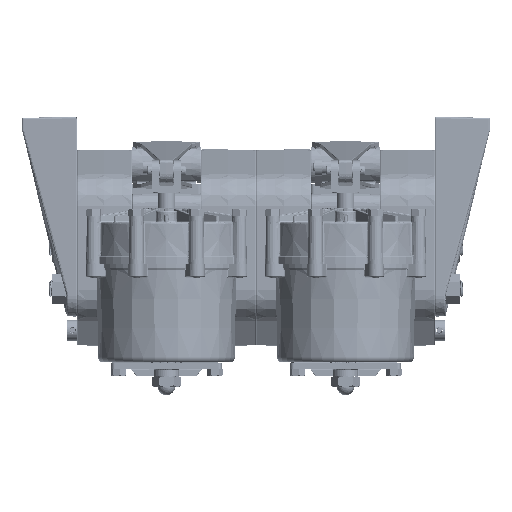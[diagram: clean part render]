
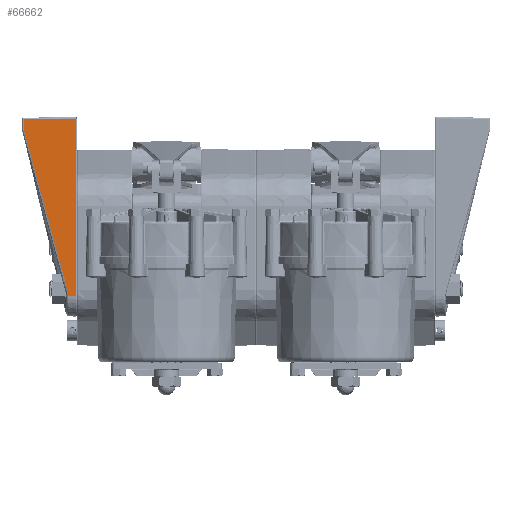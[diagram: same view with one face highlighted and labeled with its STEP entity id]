
A CAD part, left-side view. The second image highlights one B-rep face of the part: STEP entity #66662.
In plain terms, the highlighted planar face has unit normal (-1, 0.018, 0).
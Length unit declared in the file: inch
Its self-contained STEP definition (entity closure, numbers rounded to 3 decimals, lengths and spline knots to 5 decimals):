
#643 = ORIENTED_EDGE ( 'NONE', *, *, #358553, .T. ) ;
#4556 = VERTEX_POINT ( 'NONE', #82812 ) ;
#14386 = CARTESIAN_POINT ( 'NONE',  ( -4.11677, 8.43219, 4.23347 ) ) ;
#14685 = VECTOR ( 'NONE', #40124, 39.37008 ) ;
#19999 = CARTESIAN_POINT ( 'NONE',  ( -4.14427, 6.85702, -1.51057 ) ) ;
#22972 = CARTESIAN_POINT ( 'NONE',  ( -4.11677, 8.43219, 4.23347 ) ) ;
#27459 = LINE ( 'NONE', #77858, #246992 ) ;
#33780 = CARTESIAN_POINT ( 'NONE',  ( -4.11677, 8.43219, 4.65378 ) ) ;
#36001 = CARTESIAN_POINT ( 'NONE',  ( -4.12571, 7.91989, 2.41546 ) ) ;
#40124 = DIRECTION ( 'NONE',  ( 0.017, 1., -0.017 ) ) ;
#42906 = EDGE_CURVE ( 'NONE', #276134, #75764, #323130, .T. ) ;
#48799 = CARTESIAN_POINT ( 'NONE',  ( -4.14472, 6.83094, -1.62833 ) ) ;
#64887 = CARTESIAN_POINT ( 'NONE',  ( -4.1343, 7.42815, 0.61659 ) ) ;
#66028 = VECTOR ( 'NONE', #105627, 39.37008 ) ;
#66662 = ADVANCED_FACE ( 'NONE', ( #222710 ), #299421, .T. ) ;
#67817 = ORIENTED_EDGE ( 'NONE', *, *, #239038, .T. ) ;
#67942 = LINE ( 'NONE', #81614, #220214 ) ;
#75764 = VERTEX_POINT ( 'NONE', #130003 ) ;
#77683 = CARTESIAN_POINT ( 'NONE',  ( -4.14492, 6.81973, -1.68753 ) ) ;
#77858 = CARTESIAN_POINT ( 'NONE',  ( -4.14502, 6.81359, 4.75 ) ) ;
#80122 = EDGE_CURVE ( 'NONE', #136688, #201627, #67942, .T. ) ;
#81614 = CARTESIAN_POINT ( 'NONE',  ( -4.11677, 8.43219, 4.27316 ) ) ;
#82812 = CARTESIAN_POINT ( 'NONE',  ( -4.14994, 6.5318, 4.68695 ) ) ;
#101612 = AXIS2_PLACEMENT_3D ( 'NONE', #300633, #129103, #329366 ) ;
#102814 = CARTESIAN_POINT ( 'NONE',  ( -4.14502, 6.81359, -1.74761 ) ) ;
#105627 = DIRECTION ( 'NONE',  ( -0.017, -1., 0. ) ) ;
#106379 = CARTESIAN_POINT ( 'NONE',  ( -4.145, 6.81472, -1.72334 ) ) ;
#129103 = DIRECTION ( 'NONE',  ( -1., 0.017, 0. ) ) ;
#130003 = CARTESIAN_POINT ( 'NONE',  ( -4.14288, 6.93641, -1.18228 ) ) ;
#135115 = CARTESIAN_POINT ( 'NONE',  ( -4.14502, 6.81359, -1.74761 ) ) ;
#136688 = VERTEX_POINT ( 'NONE', #33780 ) ;
#143546 = EDGE_LOOP ( 'NONE', ( #288507, #643, #356212, #278394, #67817, #202859, #363116, #169129 ) ) ;
#144188 = EDGE_CURVE ( 'NONE', #75764, #320629, #171791, .T. ) ;
#169129 = ORIENTED_EDGE ( 'NONE', *, *, #236593, .T. ) ;
#170698 = CARTESIAN_POINT ( 'NONE',  ( -4.11701, 8.41838, 4.22074 ) ) ;
#171791 = B_SPLINE_CURVE_WITH_KNOTS ( 'NONE', 3,
 ( #276632, #305399, #191488, #19999, #220365, #48799, #249106, #77683, #277871, #106379, #306627, #135115 ),
 .UNSPECIFIED., .F., .F.,
 ( 4, 2, 2, 2, 2, 4 ),
 ( -0.00005, 0.00731, 0.01098, 0.01282, 0.01374, 0.01466 ),
 .UNSPECIFIED. ) ;
#175947 = LINE ( 'NONE', #211620, #14685 ) ;
#185411 = CARTESIAN_POINT ( 'NONE',  ( -4.11713, 8.41163, 4.21433 ) ) ;
#186369 = VERTEX_POINT ( 'NONE', #345706 ) ;
#191488 = CARTESIAN_POINT ( 'NONE',  ( -4.14369, 6.89028, -1.3697 ) ) ;
#201627 = VERTEX_POINT ( 'NONE', #14386 ) ;
#202859 = ORIENTED_EDGE ( 'NONE', *, *, #42906, .T. ) ;
#210885 = CARTESIAN_POINT ( 'NONE',  ( -4.14994, 6.5318, 4.68751 ) ) ;
#211620 = CARTESIAN_POINT ( 'NONE',  ( -4.15052, 6.49891, 4.68753 ) ) ;
#218317 = LINE ( 'NONE', #248390, #66028 ) ;
#219319 = DIRECTION ( 'NONE',  ( 0., 0., -1. ) ) ;
#220214 = VECTOR ( 'NONE', #281799, 39.37008 ) ;
#220365 = CARTESIAN_POINT ( 'NONE',  ( -4.14446, 6.8461, -1.55759 ) ) ;
#222710 = FACE_OUTER_BOUND ( 'NONE', #143546, .T. ) ;
#236421 = CARTESIAN_POINT ( 'NONE',  ( -4.11713, 8.41163, 4.21433 ) ) ;
#236593 = EDGE_CURVE ( 'NONE', #320629, #186369, #27459, .T. ) ;
#239038 = EDGE_CURVE ( 'NONE', #201627, #276134, #329468, .T. ) ;
#239782 = DIRECTION ( 'NONE',  ( 0., 0., 1. ) ) ;
#246992 = VECTOR ( 'NONE', #219319, 39.37008 ) ;
#248390 = CARTESIAN_POINT ( 'NONE',  ( -4.1505, 6.5, -1.75 ) ) ;
#248883 = VECTOR ( 'NONE', #239782, 39.37008 ) ;
#249106 = CARTESIAN_POINT ( 'NONE',  ( -4.14481, 6.82607, -1.65194 ) ) ;
#257870 = LINE ( 'NONE', #210885, #248883 ) ;
#265099 = CARTESIAN_POINT ( 'NONE',  ( -4.14288, 6.93641, -1.18228 ) ) ;
#268666 = EDGE_CURVE ( 'NONE', #186369, #277766, #218317, .T. ) ;
#276134 = VERTEX_POINT ( 'NONE', #185411 ) ;
#276632 = CARTESIAN_POINT ( 'NONE',  ( -4.14288, 6.93641, -1.18228 ) ) ;
#277766 = VERTEX_POINT ( 'NONE', #360550 ) ;
#277871 = CARTESIAN_POINT ( 'NONE',  ( -4.14495, 6.81778, -1.69942 ) ) ;
#278394 = ORIENTED_EDGE ( 'NONE', *, *, #80122, .T. ) ;
#281799 = DIRECTION ( 'NONE',  ( 0., 0., -1. ) ) ;
#288507 = ORIENTED_EDGE ( 'NONE', *, *, #268666, .T. ) ;
#299421 = PLANE ( 'NONE',  #101612 ) ;
#300633 = CARTESIAN_POINT ( 'NONE',  ( -4.1505, 6.5, 4.75 ) ) ;
#305399 = CARTESIAN_POINT ( 'NONE',  ( -4.14328, 6.91333, -1.27598 ) ) ;
#306627 = CARTESIAN_POINT ( 'NONE',  ( -4.14502, 6.81359, -1.73538 ) ) ;
#311584 = EDGE_CURVE ( 'NONE', #4556, #136688, #175947, .T. ) ;
#313340 = CARTESIAN_POINT ( 'NONE',  ( -4.11689, 8.42521, 4.22723 ) ) ;
#320629 = VERTEX_POINT ( 'NONE', #102814 ) ;
#323130 = B_SPLINE_CURVE_WITH_KNOTS ( 'NONE', 3,
 ( #236421, #36001, #64887, #265099 ),
 .UNSPECIFIED., .F., .F.,
 ( 4, 4 ),
 ( 0.05064, 0.96206 ),
 .UNSPECIFIED. ) ;
#329366 = DIRECTION ( 'NONE',  ( 0.017, 1., 0. ) ) ;
#329468 = B_SPLINE_CURVE_WITH_KNOTS ( 'NONE', 3,
 ( #22972, #313340, #170698, #370772 ),
 .UNSPECIFIED., .F., .F.,
 ( 4, 4 ),
 ( 0.00186, 0.00257 ),
 .UNSPECIFIED. ) ;
#345706 = CARTESIAN_POINT ( 'NONE',  ( -4.14502, 6.81359, -1.75 ) ) ;
#356212 = ORIENTED_EDGE ( 'NONE', *, *, #311584, .T. ) ;
#358553 = EDGE_CURVE ( 'NONE', #277766, #4556, #257870, .T. ) ;
#360550 = CARTESIAN_POINT ( 'NONE',  ( -4.14994, 6.5318, -1.75 ) ) ;
#363116 = ORIENTED_EDGE ( 'NONE', *, *, #144188, .T. ) ;
#370772 = CARTESIAN_POINT ( 'NONE',  ( -4.11713, 8.41163, 4.21433 ) ) ;
